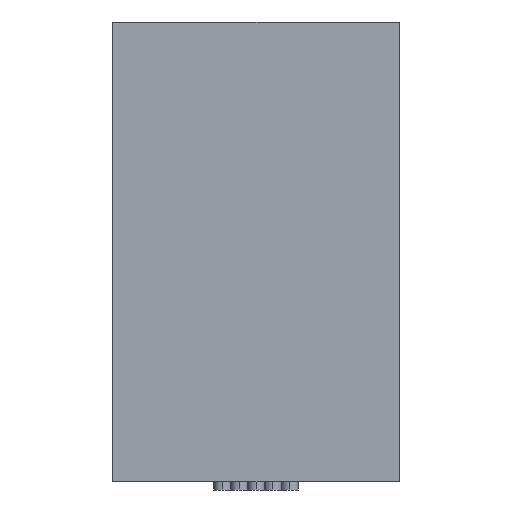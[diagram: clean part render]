
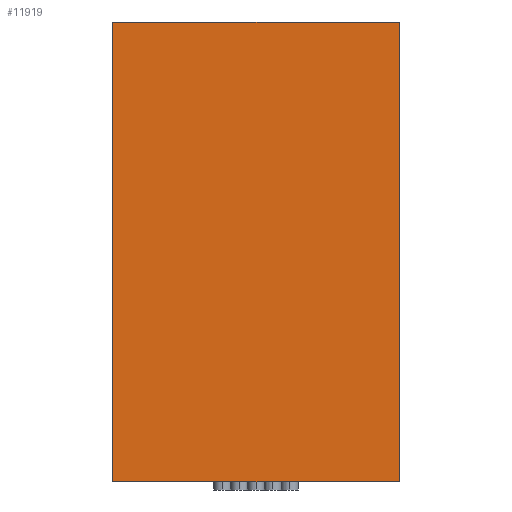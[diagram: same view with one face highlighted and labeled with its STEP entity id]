
A CAD part, left-side view. The second image highlights one B-rep face of the part: STEP entity #11919.
In plain terms, the highlighted planar face has unit normal (-1, 0, 0) as drawn and (1, 0, 0) by its records, which use the part's own axes.
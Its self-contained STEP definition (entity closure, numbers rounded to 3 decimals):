
#1283=PLANE('',#13145);
#1986=FACE_OUTER_BOUND('',#2705,.T.);
#2705=EDGE_LOOP('',(#11054,#11055,#11056,#11057));
#3990=LINE('',#22742,#4956);
#3991=LINE('',#22744,#4957);
#3992=LINE('',#22746,#4958);
#3993=LINE('',#22747,#4959);
#4956=VECTOR('',#16490,304.8);
#4957=VECTOR('',#16491,304.8);
#4958=VECTOR('',#16492,304.8);
#4959=VECTOR('',#16493,304.8);
#6036=VERTEX_POINT('',#22740);
#6037=VERTEX_POINT('',#22741);
#6038=VERTEX_POINT('',#22743);
#6039=VERTEX_POINT('',#22745);
#7782=EDGE_CURVE('',#6036,#6037,#3990,.T.);
#7783=EDGE_CURVE('',#6038,#6036,#3991,.T.);
#7784=EDGE_CURVE('',#6039,#6038,#3992,.T.);
#7785=EDGE_CURVE('',#6037,#6039,#3993,.T.);
#11054=ORIENTED_EDGE('',*,*,#7782,.F.);
#11055=ORIENTED_EDGE('',*,*,#7783,.F.);
#11056=ORIENTED_EDGE('',*,*,#7784,.F.);
#11057=ORIENTED_EDGE('',*,*,#7785,.F.);
#11919=ADVANCED_FACE('',(#1986),#1283,.T.);
#13145=AXIS2_PLACEMENT_3D('',#22739,#16488,#16489);
#16488=DIRECTION('center_axis',(1.,0.,0.));
#16489=DIRECTION('ref_axis',(0.,0.,-1.));
#16490=DIRECTION('',(0.,1.,0.));
#16491=DIRECTION('',(0.,0.,1.));
#16492=DIRECTION('',(0.,-1.,0.));
#16493=DIRECTION('',(0.,0.,-1.));
#22739=CARTESIAN_POINT('Origin',(161.5,-17.,54.5));
#22740=CARTESIAN_POINT('',(161.5,-17.,54.5));
#22741=CARTESIAN_POINT('',(161.5,17.,54.5));
#22742=CARTESIAN_POINT('',(161.5,-17.,54.5));
#22743=CARTESIAN_POINT('',(161.5,-17.,0.));
#22744=CARTESIAN_POINT('',(161.5,-17.,0.));
#22745=CARTESIAN_POINT('',(161.5,17.,0.));
#22746=CARTESIAN_POINT('',(161.5,17.,0.));
#22747=CARTESIAN_POINT('',(161.5,17.,54.5));
